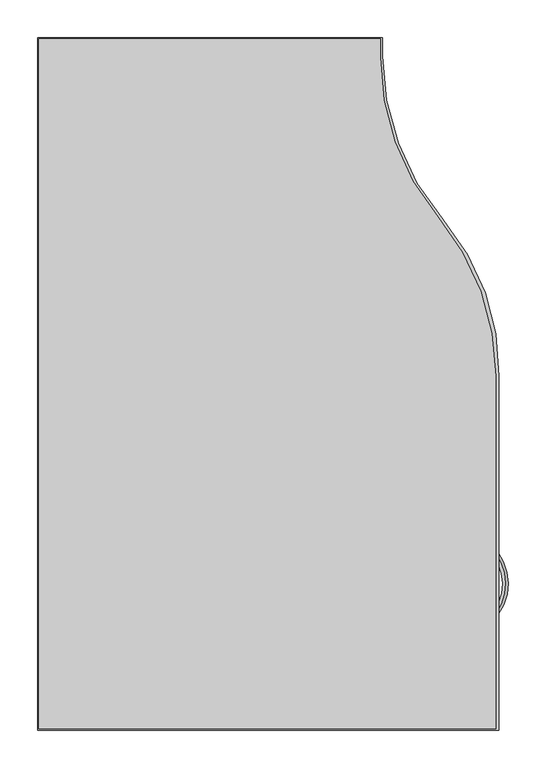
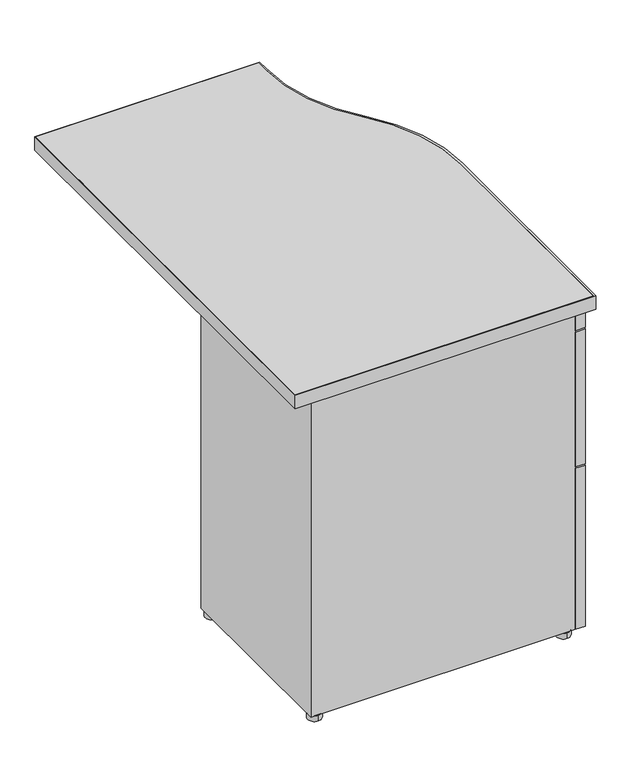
"""IFC4 building model written with IfcOpenShell, lengths in millimetres: furniture geometry, Steelcase - Kick Freestanding - Desk - Single Pedestal Transition Return : 18D x 36W - Left - File/File."""

from ifc_helpers import new_model, si_unit, point, frame, frame_2d, origin, origin_with_axes, place, context, project, spatial, polyline, circle_curve, ellipse_curve, trimmed, segment, composite_curve, outline, extrude, source, transform, mapped, element, save
from ifc_brep_helpers import plane_surface, cylinder_surface, revolved_surface, extruded_surface, advanced_brep


def furniture_8ce3a3f9(model_context):
    return source(origin(), model_context, "Body", "SolidModel", [
        advanced_brep(
        [(2760.5907209, -1316.8132511, 586.4818798), (2760.5907209, -1316.8132511, 569.2783404), (2759.9247042, -1217.6632386, 586.4818798), (2759.9247042, -1217.6632386, 569.2783404)],
        [
            (0, 1, ellipse_curve(frame((2760.5907209, -1316.8132511, 577.8801101), z_axis=(-0.7327226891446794, -0.6805273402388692, 0.0), x_axis=(0.0, 0.0, -1.0)), 8.6017697, 3.6448177)),
            (1, 0, ellipse_curve(frame((2760.5907209, -1316.8132511, 577.8801101), z_axis=(-0.7327226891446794, -0.6805273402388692, 0.0), x_axis=(0.0, 0.0, -1.0)), 8.6017697, 3.6448177)),
            (2, 3, ellipse_curve(frame((2759.9247042, -1217.6632386, 577.8801101), z_axis=(-0.7417987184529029, 0.670622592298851, 0.0), x_axis=(0.0, 0.0, -1.0)), 8.6017697, 3.6448177)),
            (3, 2, ellipse_curve(frame((2759.9247042, -1217.6632386, 577.8801101), z_axis=(-0.7417987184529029, 0.670622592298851, 0.0), x_axis=(0.0, 0.0, -1.0)), 8.6017697, 3.6448177)),
            (3, 1, circle_curve(frame((2714.8305889, -1267.5433908, 569.2783404), z_axis=(0.0, 0.0, -1.0), x_axis=(0.6805273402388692, -0.7327226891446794, 0.0)), 67.2421655)),
            (0, 2, circle_curve(frame((2714.8305889, -1267.5433908, 586.4818798), z_axis=(0.0, 0.0, 1.0), x_axis=(0.6805273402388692, -0.7327226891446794, 0.0)), 67.2421655)),
        ],
        [
            plane_surface(frame((2761.3542952, -1317.6353903, 0.0), z_axis=(-0.7327226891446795, -0.6805273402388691, 0.0), x_axis=(0.0, 0.0, 1.0))),
            plane_surface(frame((2760.6771651, -1216.8309157, 0.0), z_axis=(-0.7417987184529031, 0.6706225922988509, 0.0), x_axis=(0.0, 0.0, 1.0))),
            revolved_surface(trimmed(ellipse_curve(frame((2760.5907209, -1316.8132511, 577.8801101), z_axis=(-0.7327226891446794, -0.6805273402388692, 0.0), x_axis=(0.0, 0.0, -1.0)), 8.6017697, 3.6448177), [point((2760.5907209, -1316.8132511, 586.4818798))], [point((2760.5907209, -1316.8132511, 569.2783404))], True, "CARTESIAN"), (2714.8305889, -1267.5433908, 0.0), (0.0, 0.0, 1.0)),
            revolved_surface(trimmed(ellipse_curve(frame((2760.5907209, -1316.8132511, 577.8801101), z_axis=(-0.7327226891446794, -0.6805273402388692, 0.0), x_axis=(0.0, 0.0, -1.0)), 8.6017697, 3.6448177), [point((2760.5907209, -1316.8132511, 569.2783404))], [point((2760.5907209, -1316.8132511, 586.4818798))], True, "CARTESIAN"), (2714.8305889, -1267.5433908, 0.0), (0.0, 0.0, 1.0)),
        ],
        [
            (0, [[1, 2]]),
            (1, [[3, 4]]),
            (2, [[5, -1, 6, -4]]),
            (3, [[-6, -2, -5, -3]]),
        ],
    ),
        advanced_brep(
        [(2760.5907209, -1316.8132511, 293.5881298), (2760.5907209, -1316.8132511, 276.3845904), (2759.9247042, -1217.6632386, 293.5881298), (2759.9247042, -1217.6632386, 276.3845904)],
        [
            (0, 1, ellipse_curve(frame((2760.5907209, -1316.8132511, 284.9863601), z_axis=(-0.7327226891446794, -0.6805273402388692, 0.0), x_axis=(0.0, 0.0, -1.0)), 8.6017697, 3.6448177)),
            (1, 0, ellipse_curve(frame((2760.5907209, -1316.8132511, 284.9863601), z_axis=(-0.7327226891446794, -0.6805273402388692, 0.0), x_axis=(0.0, 0.0, -1.0)), 8.6017697, 3.6448177)),
            (2, 3, ellipse_curve(frame((2759.9247042, -1217.6632386, 284.9863601), z_axis=(-0.7417987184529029, 0.670622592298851, 0.0), x_axis=(0.0, 0.0, -1.0)), 8.6017697, 3.6448177)),
            (3, 2, ellipse_curve(frame((2759.9247042, -1217.6632386, 284.9863601), z_axis=(-0.7417987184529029, 0.670622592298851, 0.0), x_axis=(0.0, 0.0, -1.0)), 8.6017697, 3.6448177)),
            (3, 1, circle_curve(frame((2714.8305889, -1267.5433908, 276.3845904), z_axis=(0.0, 0.0, -1.0), x_axis=(0.6805273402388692, -0.7327226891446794, 0.0)), 67.2421655)),
            (0, 2, circle_curve(frame((2714.8305889, -1267.5433908, 293.5881298), z_axis=(0.0, 0.0, 1.0), x_axis=(0.6805273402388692, -0.7327226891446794, 0.0)), 67.2421655)),
        ],
        [
            plane_surface(frame((2761.3542952, -1317.6353903, 0.0), z_axis=(-0.7327226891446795, -0.6805273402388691, 0.0), x_axis=(0.0, 0.0, 1.0))),
            plane_surface(frame((2760.6771651, -1216.8309157, 0.0), z_axis=(-0.7417987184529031, 0.6706225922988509, 0.0), x_axis=(0.0, 0.0, 1.0))),
            revolved_surface(trimmed(ellipse_curve(frame((2760.5907209, -1316.8132511, 284.9863601), z_axis=(-0.7327226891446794, -0.6805273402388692, 0.0), x_axis=(0.0, 0.0, -1.0)), 8.6017697, 3.6448177), [point((2760.5907209, -1316.8132511, 293.5881298))], [point((2760.5907209, -1316.8132511, 276.3845904))], True, "CARTESIAN"), (2714.8305889, -1267.5433908, 0.0), (0.0, 0.0, 1.0)),
            revolved_surface(trimmed(ellipse_curve(frame((2760.5907209, -1316.8132511, 284.9863601), z_axis=(-0.7327226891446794, -0.6805273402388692, 0.0), x_axis=(0.0, 0.0, -1.0)), 8.6017697, 3.6448177), [point((2760.5907209, -1316.8132511, 276.3845904))], [point((2760.5907209, -1316.8132511, 293.5881298))], True, "CARTESIAN"), (2714.8305889, -1267.5433908, 0.0), (0.0, 0.0, 1.0)),
        ],
        [
            (0, [[1, 2]]),
            (1, [[3, 4]]),
            (2, [[5, -1, 6, -4]]),
            (3, [[-6, -2, -5, -3]]),
        ],
    ),
        advanced_brep(
        [(2762.8455764, -1124.2380273, 671.1566635), (2762.8455764, -1103.9180273, 671.1566635), (2759.7468248, -1124.2380273, 671.1566635), (2759.7468248, -1103.9180273, 671.1566635)],
        [
            (0, 1, circle_curve(frame((2762.8455764, -1114.0780273, 671.1566635), z_axis=(1.0, 0.0, 0.0), x_axis=(0.0, 1.0, 0.0)), 10.16)),
            (1, 0, circle_curve(frame((2762.8455764, -1114.0780273, 671.1566635), z_axis=(1.0, 0.0, 0.0), x_axis=(0.0, 1.0, 0.0)), 10.16)),
            (2, 3, circle_curve(frame((2759.7468248, -1114.0780273, 671.1566635), z_axis=(-1.0, 0.0, 0.0), x_axis=(0.0, 1.0, 0.0)), 10.16)),
            (3, 2, circle_curve(frame((2759.7468248, -1114.0780273, 671.1566635), z_axis=(-1.0, 0.0, 0.0), x_axis=(0.0, 1.0, 0.0)), 10.16)),
            (0, 2),
            (3, 1),
        ],
        [
            plane_surface(frame((2762.8455764, -1103.9180273, 671.1566635), z_axis=(1.0, 0.0, 0.0), x_axis=(0.0, 0.0, 1.0))),
            plane_surface(frame((2759.7468248, -1103.9180273, 671.1566635), z_axis=(-1.0, 0.0, 0.0), x_axis=(0.0, 0.0, -1.0))),
            cylinder_surface(frame((2759.7468248, -1114.0780273, 671.1566635), z_axis=(1.0, 0.0, 0.0), x_axis=(0.0, 1.0, 0.0)), 10.16),
        ],
        [
            (0, [[1, 2]]),
            (1, [[3, 4]]),
            (2, [[-1, 5, -4, 6]]),
            (2, [[-2, -6, -3, -5]]),
        ],
    ),
        advanced_brep(
        [(2762.8455764, -1315.4140492, 589.4466513), (2762.8455764, -1315.4140492, 566.5866513), (2759.7468248, -1315.4140492, 589.4466513), (2759.7468248, -1315.4140492, 566.5866513)],
        [
            (0, 1, ellipse_curve(frame((2762.8455764, -1315.4140492, 578.0166513), z_axis=(1.0, 0.0, 0.0), x_axis=(0.0, 0.0, -1.0)), 11.43, 8.0054005)),
            (1, 0, ellipse_curve(frame((2762.8455764, -1315.4140492, 578.0166513), z_axis=(1.0, 0.0, 0.0), x_axis=(0.0, 0.0, -1.0)), 11.43, 8.0054005)),
            (2, 3, ellipse_curve(frame((2759.7468248, -1315.4140492, 578.0166513), z_axis=(-1.0, 0.0, 0.0), x_axis=(0.0, 0.0, -1.0)), 11.43, 8.0054005)),
            (3, 2, ellipse_curve(frame((2759.7468248, -1315.4140492, 578.0166513), z_axis=(-1.0, 0.0, 0.0), x_axis=(0.0, 0.0, -1.0)), 11.43, 8.0054005)),
            (0, 2),
            (3, 1),
        ],
        [
            plane_surface(frame((2762.8455764, -1103.9180273, 671.1566635), z_axis=(1.0, 0.0, 0.0), x_axis=(0.0, 0.0, 1.0))),
            plane_surface(frame((2759.7468248, -1103.9180273, 671.1566635), z_axis=(-1.0, 0.0, 0.0), x_axis=(0.0, 0.0, -1.0))),
            extruded_surface(trimmed(ellipse_curve(frame((2755.7590248, -1315.4140492, 578.0166513), z_axis=(1.0, 0.0, 0.0), x_axis=(0.0, 0.0, -1.0)), 11.43, 8.0054005), [point((2755.7590248, -1315.4140492, 589.4466513))], [point((2755.7590248, -1315.4140492, 566.5866513))], True, "CARTESIAN"), (3.098751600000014, 0.0, 0.0), 3.098751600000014),
            extruded_surface(trimmed(ellipse_curve(frame((2755.7590248, -1315.4140492, 578.0166513), z_axis=(1.0, 0.0, 0.0), x_axis=(0.0, 0.0, -1.0)), 11.43, 8.0054005), [point((2755.7590248, -1315.4140492, 566.5866513))], [point((2755.7590248, -1315.4140492, 589.4466513))], True, "CARTESIAN"), (3.098751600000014, 0.0, 0.0), 3.098751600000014),
        ],
        [
            (0, [[1, 2]]),
            (1, [[3, 4]]),
            (2, [[-1, 5, -4, 6]]),
            (3, [[-2, -6, -3, -5]]),
        ],
    ),
        advanced_brep(
        [(2762.8455764, -1218.0852323, 589.4466513), (2762.8455764, -1218.0852323, 566.5866513), (2759.7468248, -1218.0852323, 589.4466513), (2759.7468248, -1218.0852323, 566.5866513)],
        [
            (0, 1, ellipse_curve(frame((2762.8455764, -1218.0852323, 578.0166513), z_axis=(1.0, 0.0, 0.0), x_axis=(0.0, 0.0, -1.0)), 11.43, 8.0054005)),
            (1, 0, ellipse_curve(frame((2762.8455764, -1218.0852323, 578.0166513), z_axis=(1.0, 0.0, 0.0), x_axis=(0.0, 0.0, -1.0)), 11.43, 8.0054005)),
            (2, 3, ellipse_curve(frame((2759.7468248, -1218.0852323, 578.0166513), z_axis=(-1.0, 0.0, 0.0), x_axis=(0.0, 0.0, -1.0)), 11.43, 8.0054005)),
            (3, 2, ellipse_curve(frame((2759.7468248, -1218.0852323, 578.0166513), z_axis=(-1.0, 0.0, 0.0), x_axis=(0.0, 0.0, -1.0)), 11.43, 8.0054005)),
            (0, 2),
            (3, 1),
        ],
        [
            plane_surface(frame((2762.8455764, -1103.9180273, 671.1566635), z_axis=(1.0, 0.0, 0.0), x_axis=(0.0, 0.0, 1.0))),
            plane_surface(frame((2759.7468248, -1103.9180273, 671.1566635), z_axis=(-1.0, 0.0, 0.0), x_axis=(0.0, 0.0, -1.0))),
            extruded_surface(trimmed(ellipse_curve(frame((2755.7590248, -1218.0852323, 578.0166513), z_axis=(1.0, 0.0, 0.0), x_axis=(0.0, 0.0, -1.0)), 11.43, 8.0054005), [point((2755.7590248, -1218.0852323, 589.4466513))], [point((2755.7590248, -1218.0852323, 566.5866513))], True, "CARTESIAN"), (3.098751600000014, 0.0, 0.0), 3.098751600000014),
            extruded_surface(trimmed(ellipse_curve(frame((2755.7590248, -1218.0852323, 578.0166513), z_axis=(1.0, 0.0, 0.0), x_axis=(0.0, 0.0, -1.0)), 11.43, 8.0054005), [point((2755.7590248, -1218.0852323, 566.5866513))], [point((2755.7590248, -1218.0852323, 589.4466513))], True, "CARTESIAN"), (3.098751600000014, 0.0, 0.0), 3.098751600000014),
        ],
        [
            (0, [[1, 2]]),
            (1, [[3, 4]]),
            (2, [[-1, 5, -4, 6]]),
            (3, [[-2, -6, -3, -5]]),
        ],
    ),
        advanced_brep(
        [(2762.8455764, -1314.1790775, 296.5864566), (2762.8455764, -1314.1790775, 273.7264566), (2759.7468248, -1314.1790775, 296.5864566), (2759.7468248, -1314.1790775, 273.7264566)],
        [
            (0, 1, ellipse_curve(frame((2762.8455764, -1314.1790775, 285.1564566), z_axis=(1.0, 0.0, 0.0), x_axis=(0.0, 0.0, -1.0)), 11.43, 8.0054005)),
            (1, 0, ellipse_curve(frame((2762.8455764, -1314.1790775, 285.1564566), z_axis=(1.0, 0.0, 0.0), x_axis=(0.0, 0.0, -1.0)), 11.43, 8.0054005)),
            (2, 3, ellipse_curve(frame((2759.7468248, -1314.1790775, 285.1564566), z_axis=(-1.0, 0.0, 0.0), x_axis=(0.0, 0.0, -1.0)), 11.43, 8.0054005)),
            (3, 2, ellipse_curve(frame((2759.7468248, -1314.1790775, 285.1564566), z_axis=(-1.0, 0.0, 0.0), x_axis=(0.0, 0.0, -1.0)), 11.43, 8.0054005)),
            (0, 2),
            (3, 1),
        ],
        [
            plane_surface(frame((2762.8455764, -1103.9180273, 671.1566635), z_axis=(1.0, 0.0, 0.0), x_axis=(0.0, 0.0, 1.0))),
            plane_surface(frame((2759.7468248, -1103.9180273, 671.1566635), z_axis=(-1.0, 0.0, 0.0), x_axis=(0.0, 0.0, -1.0))),
            extruded_surface(trimmed(ellipse_curve(frame((2755.7590248, -1314.1790775, 285.1564566), z_axis=(1.0, 0.0, 0.0), x_axis=(0.0, 0.0, -1.0)), 11.43, 8.0054005), [point((2755.7590248, -1314.1790775, 296.5864566))], [point((2755.7590248, -1314.1790775, 273.7264566))], True, "CARTESIAN"), (3.098751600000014, 0.0, 0.0), 3.098751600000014),
            extruded_surface(trimmed(ellipse_curve(frame((2755.7590248, -1314.1790775, 285.1564566), z_axis=(1.0, 0.0, 0.0), x_axis=(0.0, 0.0, -1.0)), 11.43, 8.0054005), [point((2755.7590248, -1314.1790775, 273.7264566))], [point((2755.7590248, -1314.1790775, 296.5864566))], True, "CARTESIAN"), (3.098751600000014, 0.0, 0.0), 3.098751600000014),
        ],
        [
            (0, [[1, 2]]),
            (1, [[3, 4]]),
            (2, [[-1, 5, -4, 6]]),
            (3, [[-2, -6, -3, -5]]),
        ],
    ),
        advanced_brep(
        [(2762.8455764, -1216.8502606, 296.5864566), (2762.8455764, -1216.8502606, 273.7264566), (2759.7468248, -1216.8502606, 296.5864566), (2759.7468248, -1216.8502606, 273.7264566)],
        [
            (0, 1, ellipse_curve(frame((2762.8455764, -1216.8502606, 285.1564566), z_axis=(1.0, 0.0, 0.0), x_axis=(0.0, 0.0, -1.0)), 11.43, 8.0054005)),
            (1, 0, ellipse_curve(frame((2762.8455764, -1216.8502606, 285.1564566), z_axis=(1.0, 0.0, 0.0), x_axis=(0.0, 0.0, -1.0)), 11.43, 8.0054005)),
            (2, 3, ellipse_curve(frame((2759.7468248, -1216.8502606, 285.1564566), z_axis=(-1.0, 0.0, 0.0), x_axis=(0.0, 0.0, -1.0)), 11.43, 8.0054005)),
            (3, 2, ellipse_curve(frame((2759.7468248, -1216.8502606, 285.1564566), z_axis=(-1.0, 0.0, 0.0), x_axis=(0.0, 0.0, -1.0)), 11.43, 8.0054005)),
            (0, 2),
            (3, 1),
        ],
        [
            plane_surface(frame((2762.8455764, -1103.9180273, 671.1566635), z_axis=(1.0, 0.0, 0.0), x_axis=(0.0, 0.0, 1.0))),
            plane_surface(frame((2759.7468248, -1103.9180273, 671.1566635), z_axis=(-1.0, 0.0, 0.0), x_axis=(0.0, 0.0, -1.0))),
            extruded_surface(trimmed(ellipse_curve(frame((2755.7590248, -1216.8502606, 285.1564566), z_axis=(1.0, 0.0, 0.0), x_axis=(0.0, 0.0, -1.0)), 11.43, 8.0054005), [point((2755.7590248, -1216.8502606, 296.5864566))], [point((2755.7590248, -1216.8502606, 273.7264566))], True, "CARTESIAN"), (3.098751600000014, 0.0, 0.0), 3.098751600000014),
            extruded_surface(trimmed(ellipse_curve(frame((2755.7590248, -1216.8502606, 285.1564566), z_axis=(1.0, 0.0, 0.0), x_axis=(0.0, 0.0, -1.0)), 11.43, 8.0054005), [point((2755.7590248, -1216.8502606, 273.7264566))], [point((2755.7590248, -1216.8502606, 296.5864566))], True, "CARTESIAN"), (3.098751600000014, 0.0, 0.0), 3.098751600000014),
        ],
        [
            (0, [[1, 2]]),
            (1, [[3, 4]]),
            (2, [[-1, 5, -4, 6]]),
            (3, [[-2, -6, -3, -5]]),
        ],
    ),
        extrude(outline(polyline([(2759.7468248, -1062.9776054), (2759.7468248, -1447.9145982), (2739.8077764, -1447.9145982), (2739.8077764, -1062.9776054), (2759.7468248, -1062.9776054)])), frame((0.0, 0.0, 360.6545895), z_axis=(0.0, 0.0, 1.0), x_axis=(1.0, 0.0, 0.0)), (0.0, 0.0, 1.0), 288.9250242),
        extrude(outline(polyline([(2759.7468248, -1062.9776054), (2759.7468248, -1447.9145982), (2739.8077764, -1447.9145982), (2739.8077764, -1062.9776054), (2759.7468248, -1062.9776054)])), frame((0.0, 0.0, 12.7), z_axis=(0.0, 0.0, 1.0), x_axis=(1.0, 0.0, 0.0)), (0.0, 0.0, 1.0), 344.7796016),
        extrude(outline(polyline([(2759.7468248, -1062.9776054), (2759.7468248, -1447.9145982), (2739.8077764, -1447.9145982), (2739.8077764, -1062.9776054), (2759.7468248, -1062.9776054)])), frame((0.0, 0.0, 652.7545653), z_axis=(0.0, 0.0, 1.0), x_axis=(1.0, 0.0, 0.0)), (0.0, 0.0, 1.0), 40.6400339),
        extrude(outline(composite_curve([segment(trimmed(circle_curve(frame_2d((2217.7074425, -1435.3382652)), 13.97), [point((2217.7074425, -1449.3082652))], [point((2217.7074425, -1421.3682652))], False, "CARTESIAN"), True, "CONTINUOUS"), segment(trimmed(circle_curve(frame_2d((2217.7074425, -1435.3382652)), 13.97), [point((2217.7074425, -1421.3682652))], [point((2217.7074425, -1449.3082652))], False, "CARTESIAN"), True, "CONTINUOUS")], self_intersect=False)), origin_with_axes(), (0.0, 0.0, 1.0), 12.446),
        extrude(outline(composite_curve([segment(trimmed(circle_curve(frame_2d((2722.6594425, -1435.3382652)), 13.97), [point((2722.6594425, -1449.3082652))], [point((2722.6594425, -1421.3682652))], False, "CARTESIAN"), True, "CONTINUOUS"), segment(trimmed(circle_curve(frame_2d((2722.6594425, -1435.3382652)), 13.97), [point((2722.6594425, -1421.3682652))], [point((2722.6594425, -1449.3082652))], False, "CARTESIAN"), True, "CONTINUOUS")], self_intersect=False)), origin_with_axes(), (0.0, 0.0, 1.0), 12.446),
        extrude(outline(composite_curve([segment(trimmed(circle_curve(frame_2d((2217.7074425, -1075.6776054)), 13.97), [point((2217.7074425, -1089.6476054))], [point((2217.7074425, -1061.7076054))], False, "CARTESIAN"), True, "CONTINUOUS"), segment(trimmed(circle_curve(frame_2d((2217.7074425, -1075.6776054)), 13.97), [point((2217.7074425, -1061.7076054))], [point((2217.7074425, -1089.6476054))], False, "CARTESIAN"), True, "CONTINUOUS")], self_intersect=False)), origin_with_axes(), (0.0, 0.0, 1.0), 12.446),
        extrude(outline(composite_curve([segment(trimmed(circle_curve(frame_2d((2723.4604252, -1075.6776054)), 12.7), [point((2723.4604252, -1088.3776054))], [point((2723.4604252, -1062.9776054))], False, "CARTESIAN"), True, "CONTINUOUS"), segment(trimmed(circle_curve(frame_2d((2723.4604252, -1075.6776054)), 12.7), [point((2723.4604252, -1062.9776054))], [point((2723.4604252, -1088.3776054))], False, "CARTESIAN"), True, "CONTINUOUS")], self_intersect=False)), origin_with_axes(), (0.0, 0.0, 1.0), 12.446),
        extrude(outline(polyline([(2203.2328248, -1062.9776054), (2739.8077764, -1062.9776054), (2739.8077764, -1447.9145982), (2203.2328248, -1447.9145982), (2203.2328248, -1062.9776054)]), holes=[polyline([(2228.6328241, -1082.8149846), (2228.6328241, -1428.0771996), (2719.2338142, -1428.0771996), (2719.2338142, -1082.8149846), (2228.6328241, -1082.8149846)])]), frame((0.0, 0.0, 12.446), z_axis=(0.0, 0.0, 1.0), x_axis=(1.0, 0.0, 0.0)), (0.0, 0.0, 1.0), 682.498),
        extrude(outline(composite_curve([segment(polyline([(2616.8176592, -547.8051152), (2616.8176592, -572.1320079)]), True, "CONTINUOUS"), segment(trimmed(circle_curve(frame_2d((2941.6463505, -574.5942763)), 324.8380233), [point((2616.8176592, -572.1320079))], [point((2692.5587903, -783.1011797))], True, "CARTESIAN"), True, "CONTINUOUS"), segment(trimmed(circle_curve(frame_2d((2440.4841513, -994.1085152)), 328.7335079), [point((2692.5587903, -783.1011797))], [point((2769.2176592, -994.1085152))], False, "CARTESIAN"), True, "CONTINUOUS"), segment(polyline([(2769.2176592, -994.1085152), (2769.2176592, -1459.4619332), (2164.8500425, -1459.4619332), (2164.8500425, -547.8051152), (2616.8176592, -547.8051152)]), True, "CONTINUOUS")], self_intersect=False)), frame((0.0, 0.0, 694.944), z_axis=(0.0, 0.0, 1.0), x_axis=(1.0, 0.0, 0.0)), (0.0, 0.0, 1.0), 28.956),
        extrude(outline(composite_curve([segment(polyline([(2619.7894255, -546.8145152), (2619.7894255, -571.0836731)]), True, "CONTINUOUS"), segment(trimmed(circle_curve(frame_2d((2951.3460478, -571.0836731)), 331.5566223), [point((2619.7894255, -571.0836731))], [point((2699.261298, -786.4509703))], True, "CARTESIAN"), True, "CONTINUOUS"), segment(trimmed(circle_curve(frame_2d((2463.6949436, -987.7058619)), 309.8306613), [point((2699.261298, -786.4509703))], [point((2773.4594425, -994.1085152))], False, "CARTESIAN"), True, "CONTINUOUS"), segment(polyline([(2773.4594425, -994.1085152), (2773.4594425, -1461.2145152), (2163.8594425, -1461.2145152), (2163.8594425, -546.8145152), (2619.7894255, -546.8145152)]), True, "CONTINUOUS")], self_intersect=False), holes=[composite_curve([segment(polyline([(2616.8176592, -547.8051152), (2164.8500425, -547.8051152), (2164.8500425, -1459.4619332), (2769.2176592, -1459.4619332), (2769.2176592, -994.1085152)]), True, "CONTINUOUS"), segment(trimmed(circle_curve(frame_2d((2440.4841513, -994.1085152)), 328.7335079), [point((2769.2176592, -994.1085152))], [point((2692.5587903, -783.1011797))], True, "CARTESIAN"), True, "CONTINUOUS"), segment(trimmed(circle_curve(frame_2d((2941.6463505, -574.5942763)), 324.8380233), [point((2692.5587903, -783.1011797))], [point((2616.8176592, -572.1320079))], False, "CARTESIAN"), True, "CONTINUOUS"), segment(polyline([(2616.8176592, -572.1320079), (2616.8176592, -547.8051152)]), True, "CONTINUOUS")], self_intersect=False)]), frame((0.0, 0.0, 694.944), z_axis=(0.0, 0.0, 1.0), x_axis=(1.0, 0.0, 0.0)), (0.0, 0.0, 1.0), 28.956),
    ])


if __name__ == "__main__":
    model = new_model("IFC4")
    model_context = context("Model", 3, world=origin())
    ifc_project = project(units=[si_unit("LENGTHUNIT", "METRE", prefix="MILLI")], contexts=[model_context])
    site = spatial("IfcSite", under=ifc_project)
    building = spatial("IfcBuilding", under=site)
    placement = place(None, origin())
    furniture_shape = furniture_8ce3a3f9(model_context)
    element("IfcFurniture", 1, ObjectType="Steelcase - Kick Freestanding - Desk - Single Pedestal Transition Return : 18D x 36W - Left - File/File", at=placement, inside=building, context=model_context, shape_type="MappedRepresentation", body=[
        mapped(furniture_shape, transform((0.0, 0.0, 0.0), x_axis=(1.0, 0.0, 0.0), y_axis=(0.0, 1.0, 0.0), z_axis=(0.0, 0.0, 1.0))),
    ])
    save(model, "model.ifc")
